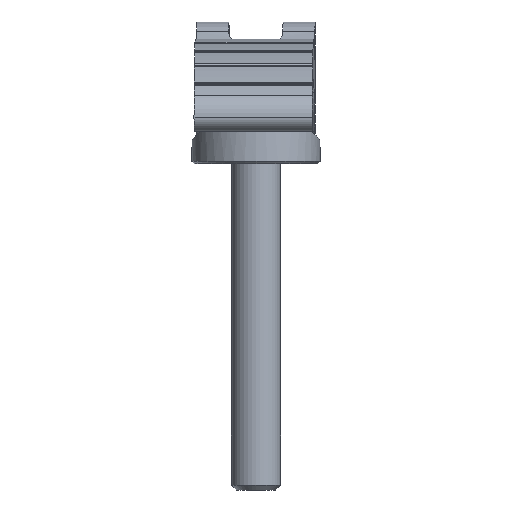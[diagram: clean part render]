
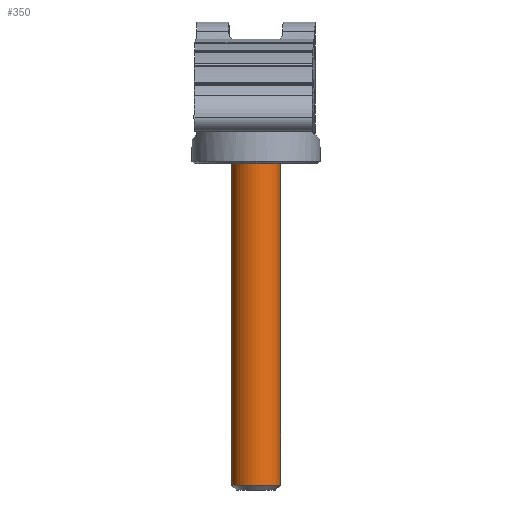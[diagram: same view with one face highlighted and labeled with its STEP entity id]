
A CAD part, left-side view. The second image highlights one B-rep face of the part: STEP entity #350.
In plain terms, the highlighted cylindrical face has radius 5 mm (diameter 10 mm), a full revolution.
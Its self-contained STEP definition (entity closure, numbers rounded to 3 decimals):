
#350=ADVANCED_FACE('',(#1155,#1157),#1159,.T.);
#1155=FACE_BOUND('',#1156,.T.);
#1156=EDGE_LOOP('',(#1581,#1582));
#1157=FACE_BOUND('',#1158,.T.);
#1158=EDGE_LOOP('',(#1583,#1584));
#1159=CYLINDRICAL_SURFACE('',#1160,5.);
#1160=AXIS2_PLACEMENT_3D('',#1161,#1162,#1163);
#1161=CARTESIAN_POINT('',(0.,0.,0.));
#1162=DIRECTION('',(-1.,0.,0.));
#1163=DIRECTION('',(0.,1.,0.));
#1581=ORIENTED_EDGE('',*,*,#1802,.T.);
#1582=ORIENTED_EDGE('',*,*,#1803,.T.);
#1583=ORIENTED_EDGE('',*,*,#1804,.T.);
#1584=ORIENTED_EDGE('',*,*,#1805,.T.);
#1802=EDGE_CURVE('',#2093,#2094,#2095,.T.);
#1803=EDGE_CURVE('',#2094,#2093,#2096,.T.);
#1804=EDGE_CURVE('',#2097,#2098,#2099,.T.);
#1805=EDGE_CURVE('',#2098,#2097,#2100,.T.);
#2093=VERTEX_POINT('',#4278);
#2094=VERTEX_POINT('',#4279);
#2095=CIRCLE('',#4280,5.);
#2096=CIRCLE('',#4284,5.);
#2097=VERTEX_POINT('',#4288);
#2098=VERTEX_POINT('',#4289);
#2099=CIRCLE('',#4290,5.);
#2100=CIRCLE('',#4294,5.);
#4278=CARTESIAN_POINT('',(-1.,5.,0.));
#4279=CARTESIAN_POINT('',(-1.,-5.,0.));
#4280=AXIS2_PLACEMENT_3D('',#4281,#4282,#4283);
#4281=CARTESIAN_POINT('',(-1.,0.,0.));
#4282=DIRECTION('',(-1.,0.,0.));
#4283=DIRECTION('',(0.,1.,0.));
#4284=AXIS2_PLACEMENT_3D('',#4285,#4286,#4287);
#4285=CARTESIAN_POINT('',(-1.,0.,0.));
#4286=DIRECTION('',(-1.,0.,0.));
#4287=DIRECTION('',(0.,-1.,0.));
#4288=CARTESIAN_POINT('',(-89.,5.,0.));
#4289=CARTESIAN_POINT('',(-89.,0.,5.));
#4290=AXIS2_PLACEMENT_3D('',#4291,#4292,#4293);
#4291=CARTESIAN_POINT('',(-89.,0.,0.));
#4292=DIRECTION('',(1.,0.,0.));
#4293=DIRECTION('',(0.,1.,0.));
#4294=AXIS2_PLACEMENT_3D('',#4295,#4296,#4297);
#4295=CARTESIAN_POINT('',(-89.,0.,0.));
#4296=DIRECTION('',(1.,0.,0.));
#4297=DIRECTION('',(0.,0.,1.));
